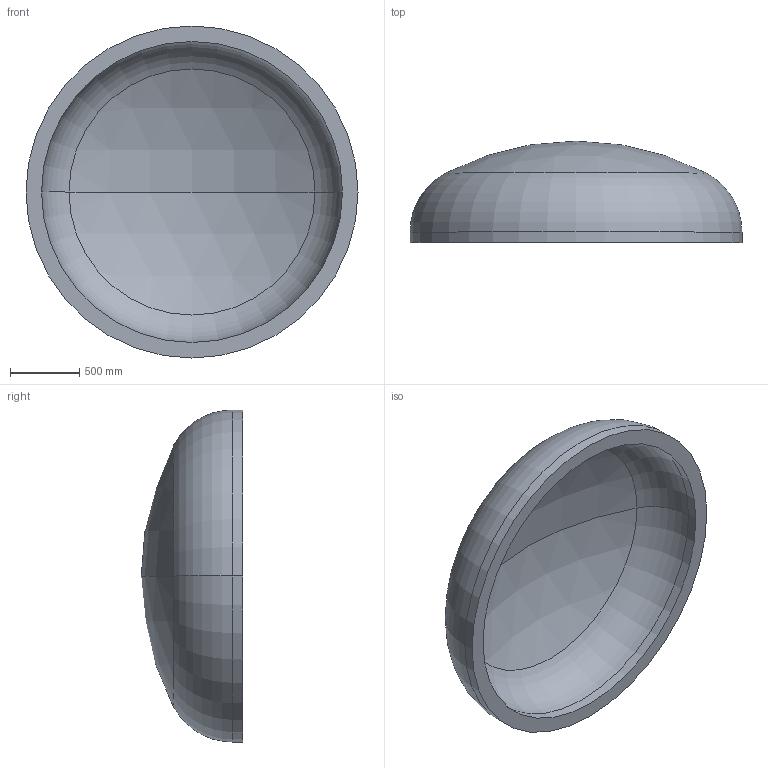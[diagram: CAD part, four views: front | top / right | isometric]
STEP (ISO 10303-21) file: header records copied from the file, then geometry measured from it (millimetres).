
FILE_DESCRIPTION (( 'STEP AP203' ), '1' );
FILE_NAME ('DIN 28013 Korbbogenform_-_Boden DIN 28013 - 2400 x 75 - I - s=112.step', '2016-07-01T15:45:30', ( '' ), ( '' ), 'SwSTEP 2.0', 'SolidWorks 2013', '' );
FILE_SCHEMA (( 'CONFIG_CONTROL_DESIGN' ));
Length unit declared in the file: millimetre
Products named in the file (1): DIN 28013 Korbbogenform_-_Boden DIN 28013 - 2400 x 75 - I - s=112
Bounding box: 2400 x 733.33 x 2400 mm (x, y, z)
Volume: 721309944 mm3; surface area: 13711855 mm2
Topology: 1 solids, 1 shells, 13 faces, 24 edges, 14 vertices
Faces by surface type: torus 4, cylinder 4, sphere 4, plane 1
Entity records: 407 total; most frequent: DIRECTION 72, CARTESIAN_POINT 52, ORIENTED_EDGE 48, AXIS2_PLACEMENT_3D 34, EDGE_CURVE 24, CIRCLE 20, VERTEX_POINT 14, EDGE_LOOP 14
